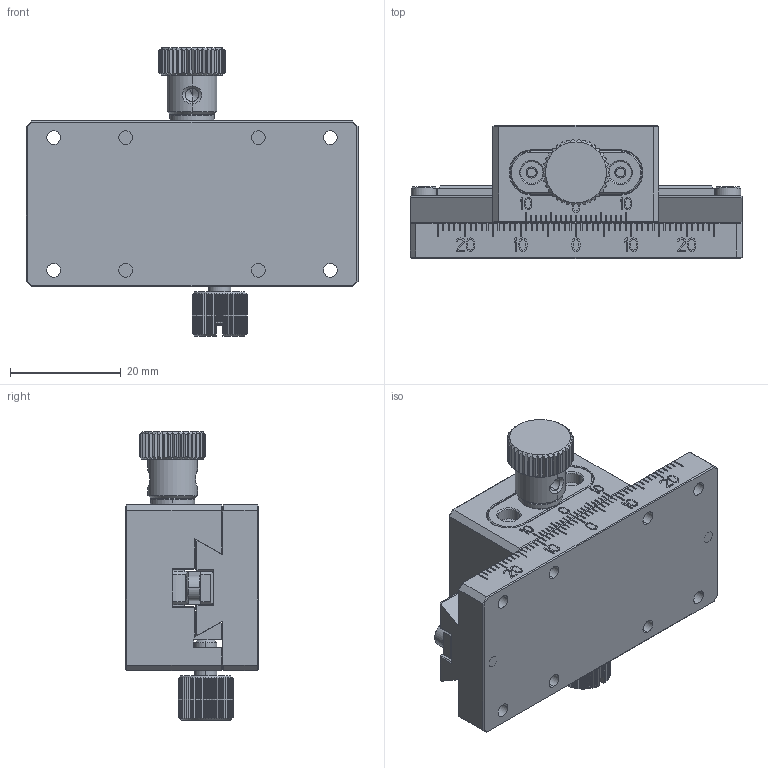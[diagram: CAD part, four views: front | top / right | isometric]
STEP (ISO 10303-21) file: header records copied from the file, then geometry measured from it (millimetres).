
FILE_DESCRIPTION((''),'2;1');
FILE_NAME('ASSY-30-ST40_ASM','2021-12-23T21:09:16',('windows10'),(''),'CREO PARAMETRIC BY PTC INC, 2018260','CREO PARAMETRIC BY PTC INC, 2018260','');
FILE_SCHEMA(('CONFIG_CONTROL_DESIGN'));
Length unit declared in the file: millimetre
Products named in the file (12): BOTTOM-30-60-M; RACK-6-5-60; 2D5-6; TOP-30-30-F; PINION-4-25; HOLDER-PINION-3; WASHER-8-4-1D4; HANDLE-12-12; ASSY-HANDLE-12-28D2_ASM; ASSY-TOP-30-30-F_ASM; STOPPER-10-M4-14D5; ASSY-30-ST40_ASM
Assembly tree (12 placements, depth 4):
  ASSY-30-ST40_ASM
    BOTTOM-30-60-M
    RACK-6-5-60
    2D5-6  x2
    ASSY-TOP-30-30-F_ASM
      TOP-30-30-F
      ASSY-HANDLE-12-28D2_ASM
        PINION-4-25
        HOLDER-PINION-3
        WASHER-8-4-1D4
        HANDLE-12-12
    STOPPER-10-M4-14D5
Bounding box: 60 x 24 x 52.09 mm (x, y, z)
Volume: 29505.3 mm3; surface area: 16455.8 mm2
Topology: 10 solids, 10 shells, 1464 faces, 4027 edges, 2628 vertices
Faces by surface type: plane 1132, cylinder 222, cone 106, bspline 4
Entity records: 47045 total; most frequent: CARTESIAN_POINT 10261, ORIENTED_EDGE 7954, DIRECTION 7037, EDGE_CURVE 3977, VECTOR 3049, LINE 3049, VERTEX_POINT 2602, AXIS2_PLACEMENT_3D 1994
